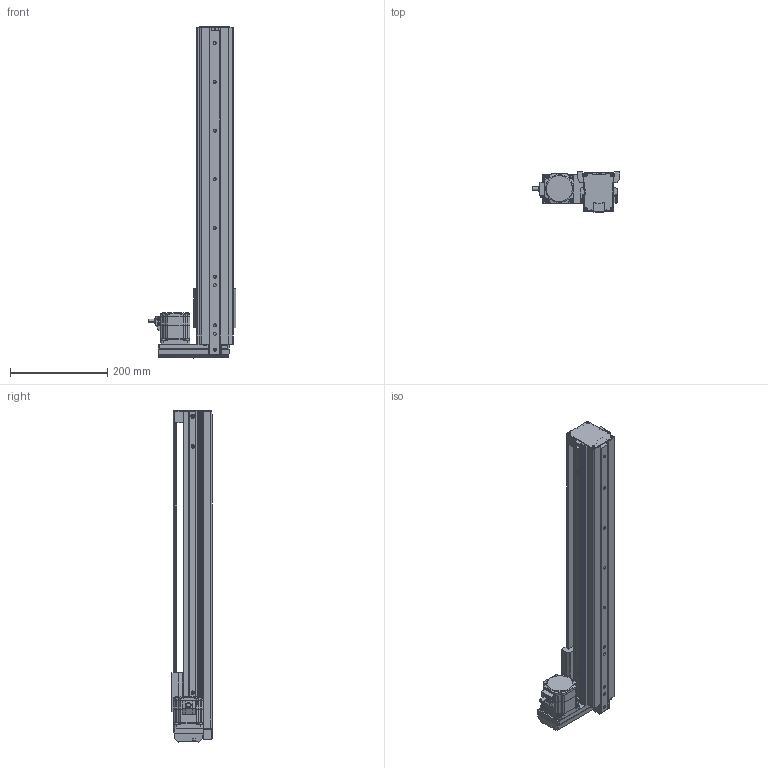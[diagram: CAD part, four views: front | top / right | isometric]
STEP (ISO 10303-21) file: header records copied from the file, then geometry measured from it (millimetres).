
FILE_DESCRIPTION (( 'STEP AP203' ), '1' );
FILE_NAME ('EASM6RXD050ARAK.step', '2013-10-10T16:20:17', ( 'om' ), ( 'Hewlett-Packard Company' ), 'SwSTEP 2.0', 'SolidWorks 2011', '' );
FILE_SCHEMA (( 'CONFIG_CONTROL_DESIGN' ));
Length unit declared in the file: millimetre
Products named in the file (4): EASM6RXD050ARAK_Motor; EASM6RXD050ARAK; EASM6RXD050ARAK_Table; EASM6RXD050ARAK_BASE
Assembly tree (3 placements, depth 2):
  EASM6RXD050ARAK
    EASM6RXD050ARAK_BASE
    EASM6RXD050ARAK_Table
    EASM6RXD050ARAK_Motor
Bounding box: 180.5 x 83 x 682.13 mm (x, y, z)
Volume: 1912706.6 mm3; surface area: 529280.2 mm2
Topology: 3 solids, 15 shells, 1141 faces, 2973 edges, 1937 vertices
Faces by surface type: plane 671, cylinder 388, cone 54, torus 24, bspline 4
Entity records: 35715 total; most frequent: CARTESIAN_POINT 6580, DIRECTION 6032, ORIENTED_EDGE 5910, EDGE_CURVE 2955, VECTOR 2030, LINE 2030, AXIS2_PLACEMENT_3D 2001, VERTEX_POINT 1937
